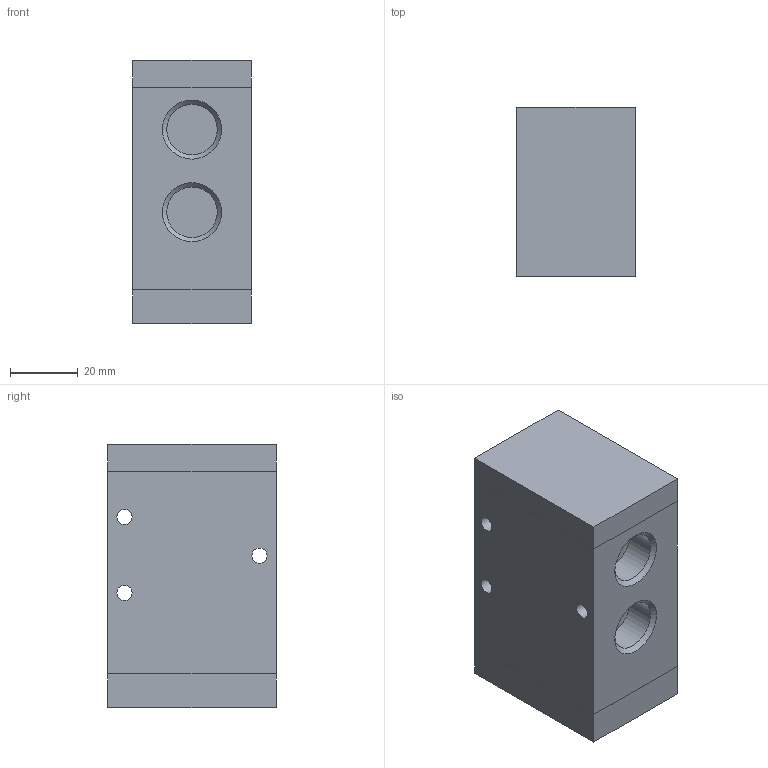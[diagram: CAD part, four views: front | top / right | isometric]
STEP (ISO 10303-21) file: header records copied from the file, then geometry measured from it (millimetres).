
FILE_DESCRIPTION(/* description */ ('V. OTT. PNEUM.-MOLLA NC'),/* implementation_level */ '2;1');
FILE_NAME(/* name */ 'C:\PNX_VAULTFOLDER\Area Tecnica\Disegni\VARIE-3D\Componenti\1900 (vuoto)\779-V_32_11_1C.stp',/* time_stamp */ '2019-09-13T12:07:11+02:00',/* author */ ('maniean1'),/* organization */ ('Pneumax S.p.A.'),/* preprocessor_version */ 'ST-DEVELOPER v17',/* originating_system */ 'Autodesk Inventor 2019',/* authorisation */ '');
FILE_SCHEMA (('AUTOMOTIVE_DESIGN { 1 0 10303 214 3 1 1 }'));
Length unit declared in the file: millimetre
Products named in the file (1): 779/V.32.11.1C
Bounding box: 35 x 50 x 78 mm (x, y, z)
Volume: 128941.7 mm3; surface area: 19660.9 mm2
Topology: 1 solids, 1 shells, 31 faces, 77 edges, 54 vertices
Faces by surface type: plane 20, cylinder 7, cone 4
Full cylindrical faces by diameter (mm): 4.5 x3, 8.566 x1, 14.95 x3
Entity records: 996 total; most frequent: DIRECTION 171, CARTESIAN_POINT 163, ORIENTED_EDGE 154, EDGE_CURVE 77, AXIS2_PLACEMENT_3D 62, VERTEX_POINT 54, LINE 47, VECTOR 47
